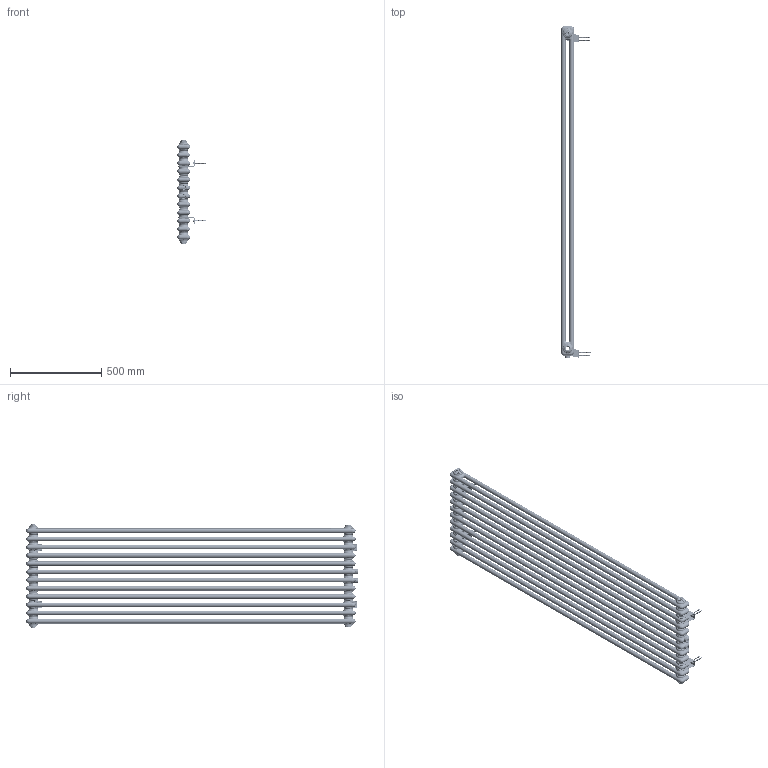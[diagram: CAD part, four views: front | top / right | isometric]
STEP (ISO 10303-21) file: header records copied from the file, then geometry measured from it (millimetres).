
FILE_DESCRIPTION(/* description */ (''),/* implementation_level */ '2;1');
FILE_NAME(/* name */ 'CL02 1800x560 D50',/* time_stamp */ '2023-09-09T16:11:45+08:00',/* author */ (''),/* organization */ (''),/* preprocessor_version */ 'ST-DEVELOPER v9',/* originating_system */ 'UGS - NX 4.0',/* authorisation */ '');
FILE_SCHEMA (('CONFIG_CONTROL_DESIGN'));
Length unit declared in the file: millimetre
Products named in the file (1): AdmiF21Fozoq
Bounding box: 161.6 x 1816 x 572 mm (x, y, z)
Volume: 4968814.7 mm3; surface area: 6579623.1 mm2
Topology: 33 solids, 33 shells, 4213 faces, 10243 edges, 6089 vertices
Faces by surface type: bspline 1299, cylinder 959, plane 868, torus 692, cone 395
Full cylindrical faces by diameter (mm): 19 x2, 25 x2
Entity records: 271398 total; most frequent: CARTESIAN_POINT 182942, ORIENTED_EDGE 20450, DIRECTION 16097, EDGE_CURVE 10225, AXIS2_PLACEMENT_3D 6749, VERTEX_POINT 6091, EDGE_LOOP 4376, ADVANCED_FACE 4213
